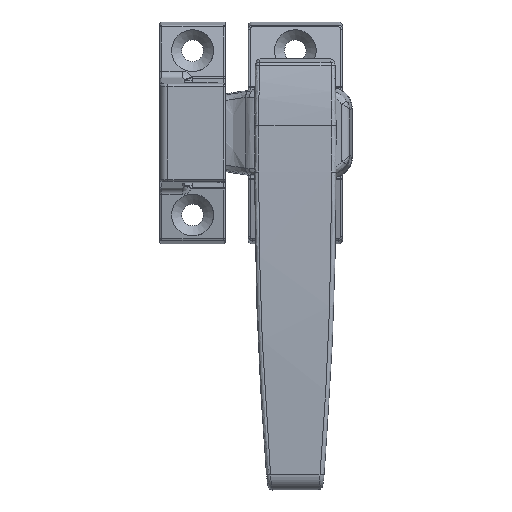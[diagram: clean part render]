
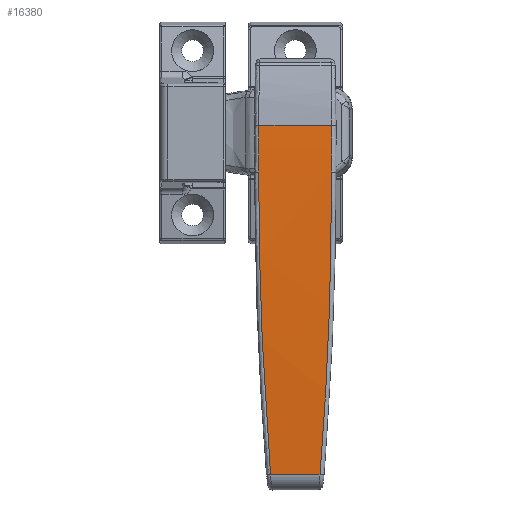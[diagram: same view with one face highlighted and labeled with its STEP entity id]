
A CAD part, top view. The second image highlights one B-rep face of the part: STEP entity #16380.
In plain terms, the highlighted cylindrical face has radius 800 mm (diameter 1600 mm), a partial arc.
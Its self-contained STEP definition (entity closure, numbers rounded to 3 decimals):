
#15705=CARTESIAN_POINT('',(-8.885,-10.973,1.794));
#15706=VERTEX_POINT('',#15705);
#15747=CARTESIAN_POINT('',(-8.904,-11.233,-9.583));
#15748=VERTEX_POINT('',#15747);
#15756=CARTESIAN_POINT('',(49.904,788.669,-22.128));
#15757=DIRECTION('',(-0.997,0.073,0.));
#15758=DIRECTION('',(-0.073,-0.997,0.));
#15759=AXIS2_PLACEMENT_3D('',#15756,#15757,#15758);
#15760=ELLIPSE('',#15759,802.159,800.);
#15761=EDGE_CURVE('',#15748,#15706,#15760,.T.);
#15797=CARTESIAN_POINT('',(-6.021,-8.988,-83.306));
#15798=VERTEX_POINT('',#15797);
#15806=CARTESIAN_POINT('',(-6.021,-8.988,-83.306));
#15807=CARTESIAN_POINT('',(-7.966,-10.865,-58.835));
#15808=CARTESIAN_POINT('',(-8.932,-11.619,-34.2));
#15809=CARTESIAN_POINT('',(-8.904,-11.233,-9.583));
#15810=B_SPLINE_CURVE_WITH_KNOTS('',3,(#15806,#15807,#15808,#15809),.UNSPECIFIED.,.F.,.U.,(4,4),(-7.377,0.),.UNSPECIFIED.);
#15811=EDGE_CURVE('',#15798,#15748,#15810,.T.);
#16327=CARTESIAN_POINT('',(8.885,-10.973,1.794));
#16328=VERTEX_POINT('',#16327);
#16329=CARTESIAN_POINT('',(8.885,-10.973,1.794));
#16330=DIRECTION('',(-1.0,0.0,0.0));
#16331=VECTOR('',#16330,17.77);
#16332=LINE('',#16329,#16331);
#16333=EDGE_CURVE('',#16328,#15706,#16332,.T.);
#16346=CARTESIAN_POINT('',(0.0,788.669,-22.128));
#16347=DIRECTION('',(1.0,0.0,0.0));
#16348=DIRECTION('',(0.0,1.,-0.03));
#16349=AXIS2_PLACEMENT_3D('',#16346,#16347,#16348);
#16350=CYLINDRICAL_SURFACE('',#16349,800.);
#16351=ORIENTED_EDGE('',*,*,#15761,.F.);
#16352=ORIENTED_EDGE('',*,*,#15811,.F.);
#16353=CARTESIAN_POINT('',(6.021,-8.988,-83.306));
#16354=VERTEX_POINT('',#16353);
#16355=CARTESIAN_POINT('',(6.021,-8.988,-83.306));
#16356=DIRECTION('',(-1.0,0.0,0.0));
#16357=VECTOR('',#16356,12.042);
#16358=LINE('',#16355,#16357);
#16359=EDGE_CURVE('',#16354,#15798,#16358,.T.);
#16360=ORIENTED_EDGE('',*,*,#16359,.F.);
#16361=CARTESIAN_POINT('',(8.904,-11.233,-9.583));
#16362=VERTEX_POINT('',#16361);
#16363=CARTESIAN_POINT('',(8.904,-11.233,-9.583));
#16364=CARTESIAN_POINT('',(8.932,-11.619,-34.2));
#16365=CARTESIAN_POINT('',(7.966,-10.865,-58.835));
#16366=CARTESIAN_POINT('',(6.021,-8.988,-83.306));
#16367=B_SPLINE_CURVE_WITH_KNOTS('',3,(#16363,#16364,#16365,#16366),.UNSPECIFIED.,.F.,.U.,(4,4),(-7.377,0.0),.UNSPECIFIED.);
#16368=EDGE_CURVE('',#16362,#16354,#16367,.T.);
#16369=ORIENTED_EDGE('',*,*,#16368,.F.);
#16370=CARTESIAN_POINT('',(-49.904,788.669,-22.128));
#16371=DIRECTION('',(0.997,0.073,0.));
#16372=DIRECTION('',(0.073,-0.997,0.));
#16373=AXIS2_PLACEMENT_3D('',#16370,#16371,#16372);
#16374=ELLIPSE('',#16373,802.159,800.);
#16375=EDGE_CURVE('',#16328,#16362,#16374,.T.);
#16376=ORIENTED_EDGE('',*,*,#16375,.F.);
#16377=ORIENTED_EDGE('',*,*,#16333,.T.);
#16378=EDGE_LOOP('',(#16351,#16352,#16360,#16369,#16376,#16377));
#16379=FACE_OUTER_BOUND('',#16378,.T.);
#16380=ADVANCED_FACE('',(#16379),#16350,.T.);
